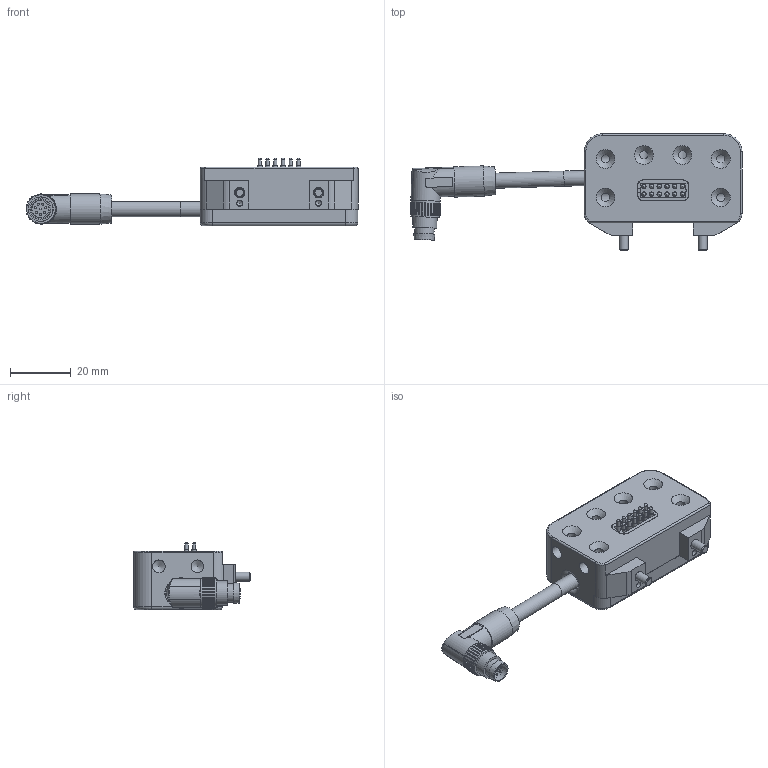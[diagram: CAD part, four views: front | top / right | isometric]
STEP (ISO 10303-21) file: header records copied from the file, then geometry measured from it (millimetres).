
FILE_DESCRIPTION(/* description */ (''),/* implementation_level */ '2;1');
FILE_NAME(/* name */ 'T:\CAD\Standard\SHW\SEK-P\SEK100\SEK100-6PM5-1FE12\G-SEK100-U-6PM5-1FE12-40-M8.stp',/* time_stamp */ '2022-02-15T14:35:27+01:00',/* author */ ('vbednarz'),/* organization */ (''),/* preprocessor_version */ 'ST-DEVELOPER v17',/* originating_system */ 'Autodesk Inventor 2018',/* authorisation */ '');
FILE_SCHEMA (('AUTOMOTIVE_DESIGN { 1 0 10303 214 3 1 1 }'));
Length unit declared in the file: millimetre
Products named in the file (1): G-SEK100-U-6PM5-1FE12-40-M8.step
Bounding box: 109.44 x 38.4 x 22.24 mm (x, y, z)
Volume: 29515.8 mm3; surface area: 15326 mm2
Topology: 4 solids, 13 shells, 739 faces, 1863 edges, 1256 vertices
Faces by surface type: plane 368, cylinder 289, cone 38, torus 22, bspline 14, sphere 8
Full cylindrical faces by diameter (mm): 0.6 x8, 0.97 x12, 1 x5, 1.07 x12, 1.5 x12, 1.65 x12, 1.8 x2, 1.98 x12, 2.02 x2, 2.05 x4, 2.5 x4, 2.8 x6, 2.9 x4, 3 x2, 3.4 x2, 4.2 x6, 4.5 x4, 5 x5, 5.5 x2, 5.8 x2, 6 x2, 6.3 x1, 8 x1, 9.4 x1, 10 x1
Entity records: 24646 total; most frequent: CARTESIAN_POINT 5358, DIRECTION 4033, ORIENTED_EDGE 3670, EDGE_CURVE 1835, AXIS2_PLACEMENT_3D 1560, VERTEX_POINT 1254, LINE 913, VECTOR 913
